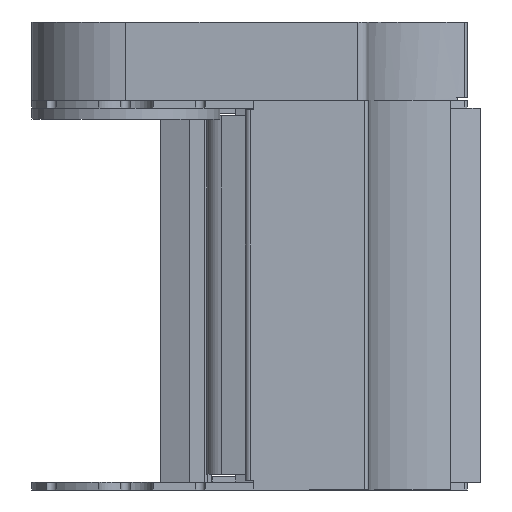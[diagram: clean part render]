
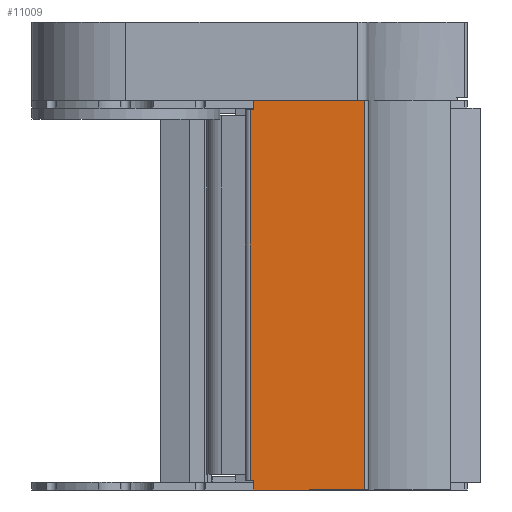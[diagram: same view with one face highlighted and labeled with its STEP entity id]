
A CAD part, front view. The second image highlights one B-rep face of the part: STEP entity #11009.
In plain terms, the highlighted planar face has unit normal (0, -1, 0).
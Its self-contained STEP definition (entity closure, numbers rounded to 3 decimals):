
#393 = VECTOR ( 'NONE', #11880, 1000. ) ;
#443 = LINE ( 'NONE', #10219, #2467 ) ;
#668 = VERTEX_POINT ( 'NONE', #2532 ) ;
#843 = ORIENTED_EDGE ( 'NONE', *, *, #7147, .F. ) ;
#1241 = CARTESIAN_POINT ( 'NONE',  ( -35.721, -61., -118.5 ) ) ;
#1279 = CARTESIAN_POINT ( 'NONE',  ( 37.279, -61., -305.911 ) ) ;
#1370 = CARTESIAN_POINT ( 'NONE',  ( 37.279, -61., -124.5 ) ) ;
#1578 = DIRECTION ( 'NONE',  ( 0., 0., 1. ) ) ;
#1702 = LINE ( 'NONE', #3688, #6673 ) ;
#1936 = VECTOR ( 'NONE', #7198, 1000. ) ;
#2045 = VERTEX_POINT ( 'NONE', #1370 ) ;
#2171 = CARTESIAN_POINT ( 'NONE',  ( -33.721, -61., 124.5 ) ) ;
#2342 = AXIS2_PLACEMENT_3D ( 'NONE', #1279, #6320, #7303 ) ;
#2422 = VERTEX_POINT ( 'NONE', #11811 ) ;
#2467 = VECTOR ( 'NONE', #9346, 1000. ) ;
#2522 = ORIENTED_EDGE ( 'NONE', *, *, #5685, .T. ) ;
#2532 = CARTESIAN_POINT ( 'NONE',  ( -33.721, -61., 118.5 ) ) ;
#3229 = VECTOR ( 'NONE', #8037, 1000. ) ;
#3307 = CARTESIAN_POINT ( 'NONE',  ( -33.721, -61., -118.5 ) ) ;
#3688 = CARTESIAN_POINT ( 'NONE',  ( -33.721, -61., -118.5 ) ) ;
#3703 = EDGE_CURVE ( 'NONE', #11375, #10639, #11113, .T. ) ;
#3913 = LINE ( 'NONE', #11790, #12737 ) ;
#4560 = ORIENTED_EDGE ( 'NONE', *, *, #7462, .F. ) ;
#4729 = LINE ( 'NONE', #10590, #12322 ) ;
#4960 = CARTESIAN_POINT ( 'NONE',  ( -35.721, -61., -305.911 ) ) ;
#5045 = EDGE_CURVE ( 'NONE', #2422, #2045, #9069, .T. ) ;
#5063 = ORIENTED_EDGE ( 'NONE', *, *, #5045, .T. ) ;
#5092 = CARTESIAN_POINT ( 'NONE',  ( 37.279, -61., -124.5 ) ) ;
#5130 = CARTESIAN_POINT ( 'NONE',  ( -33.721, -61., 118.5 ) ) ;
#5383 = DIRECTION ( 'NONE',  ( 0., 0., -1. ) ) ;
#5614 = EDGE_CURVE ( 'NONE', #10658, #2422, #11239, .T. ) ;
#5619 = ORIENTED_EDGE ( 'NONE', *, *, #12385, .F. ) ;
#5670 = VERTEX_POINT ( 'NONE', #8237 ) ;
#5685 = EDGE_CURVE ( 'NONE', #2045, #5670, #4729, .T. ) ;
#5858 = ORIENTED_EDGE ( 'NONE', *, *, #5614, .T. ) ;
#6320 = DIRECTION ( 'NONE',  ( 0., -1., 0. ) ) ;
#6669 = CARTESIAN_POINT ( 'NONE',  ( -35.721, -61., 118.5 ) ) ;
#6673 = VECTOR ( 'NONE', #12679, 1000. ) ;
#7044 = VECTOR ( 'NONE', #5383, 1000. ) ;
#7147 = EDGE_CURVE ( 'NONE', #10639, #668, #3913, .T. ) ;
#7198 = DIRECTION ( 'NONE',  ( 1., 0., 0. ) ) ;
#7303 = DIRECTION ( 'NONE',  ( 0., 0., -1. ) ) ;
#7462 = EDGE_CURVE ( 'NONE', #10658, #11375, #1702, .T. ) ;
#7647 = EDGE_LOOP ( 'NONE', ( #5858, #5063, #2522, #10453, #5619, #843, #9067, #4560 ) ) ;
#8037 = DIRECTION ( 'NONE',  ( 0., 0., 1. ) ) ;
#8237 = CARTESIAN_POINT ( 'NONE',  ( 37.279, -61., 124.5 ) ) ;
#8321 = VERTEX_POINT ( 'NONE', #2171 ) ;
#8373 = FACE_OUTER_BOUND ( 'NONE', #7647, .T. ) ;
#8570 = CARTESIAN_POINT ( 'NONE',  ( -33.721, -61., -118.5 ) ) ;
#8909 = LINE ( 'NONE', #5130, #393 ) ;
#9067 = ORIENTED_EDGE ( 'NONE', *, *, #3703, .F. ) ;
#9069 = LINE ( 'NONE', #5092, #1936 ) ;
#9346 = DIRECTION ( 'NONE',  ( 1., 0., 0. ) ) ;
#10219 = CARTESIAN_POINT ( 'NONE',  ( 37.279, -61., 124.5 ) ) ;
#10453 = ORIENTED_EDGE ( 'NONE', *, *, #10473, .F. ) ;
#10473 = EDGE_CURVE ( 'NONE', #8321, #5670, #443, .T. ) ;
#10590 = CARTESIAN_POINT ( 'NONE',  ( 37.279, -61., -305.911 ) ) ;
#10639 = VERTEX_POINT ( 'NONE', #6669 ) ;
#10658 = VERTEX_POINT ( 'NONE', #8570 ) ;
#11009 = ADVANCED_FACE ( 'NONE', ( #8373 ), #11032, .T. ) ;
#11032 = PLANE ( 'NONE',  #2342 ) ;
#11113 = LINE ( 'NONE', #4960, #3229 ) ;
#11239 = LINE ( 'NONE', #3307, #7044 ) ;
#11375 = VERTEX_POINT ( 'NONE', #1241 ) ;
#11790 = CARTESIAN_POINT ( 'NONE',  ( -35.721, -61., 118.5 ) ) ;
#11811 = CARTESIAN_POINT ( 'NONE',  ( -33.721, -61., -124.5 ) ) ;
#11880 = DIRECTION ( 'NONE',  ( 0., 0., 1. ) ) ;
#12322 = VECTOR ( 'NONE', #1578, 1000. ) ;
#12385 = EDGE_CURVE ( 'NONE', #668, #8321, #8909, .T. ) ;
#12679 = DIRECTION ( 'NONE',  ( -1., 0., 0. ) ) ;
#12737 = VECTOR ( 'NONE', #12795, 1000. ) ;
#12795 = DIRECTION ( 'NONE',  ( 1., 0., 0. ) ) ;
